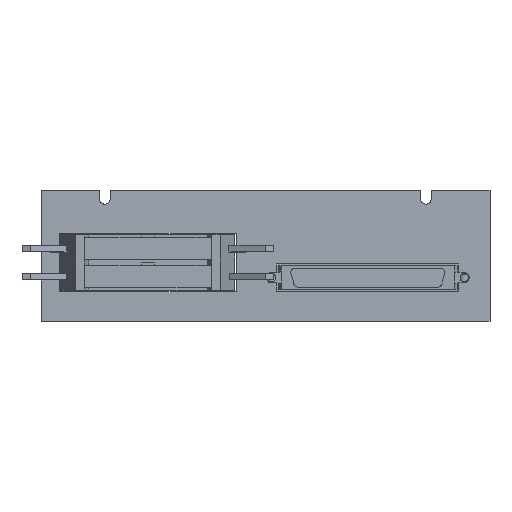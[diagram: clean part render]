
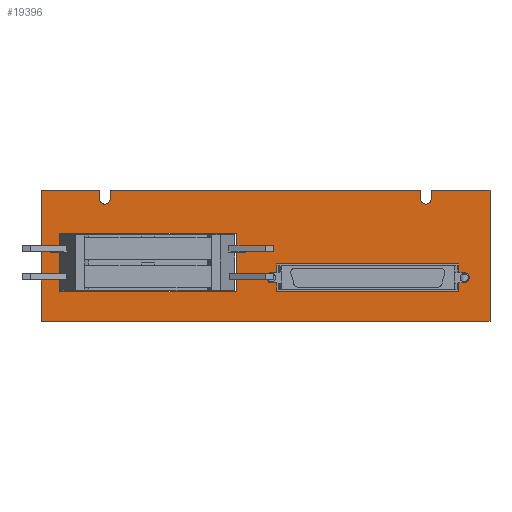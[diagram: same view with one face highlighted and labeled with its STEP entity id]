
A CAD part, top view. The second image highlights one B-rep face of the part: STEP entity #19396.
In plain terms, the highlighted planar face has unit normal (0, 0, 1).
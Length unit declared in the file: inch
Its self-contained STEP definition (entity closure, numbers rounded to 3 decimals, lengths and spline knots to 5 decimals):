
#475=DIRECTION('',(0.,-1.,0.));
#476=VECTOR('',#475,0.1);
#477=CARTESIAN_POINT('',(-1.86189,1.205,3.78));
#478=LINE('',#477,#476);
#479=DIRECTION('',(-1.,0.,0.));
#480=VECTOR('',#479,3.674);
#481=CARTESIAN_POINT('',(1.81211,1.205,3.78));
#482=LINE('',#481,#480);
#483=DIRECTION('',(0.,-1.,0.));
#484=VECTOR('',#483,0.1);
#485=CARTESIAN_POINT('',(1.81211,1.205,3.78));
#486=LINE('',#485,#484);
#487=CARTESIAN_POINT('',(1.87511,1.105,3.78));
#488=DIRECTION('',(0.,0.,1.));
#489=DIRECTION('',(-1.,0.,0.));
#490=AXIS2_PLACEMENT_3D('',#487,#488,#489);
#492=DIRECTION('',(0.,-1.,0.));
#493=VECTOR('',#492,0.1);
#494=CARTESIAN_POINT('',(1.93811,1.205,3.78));
#495=LINE('',#494,#493);
#496=DIRECTION('',(-1.,0.,0.));
#497=VECTOR('',#496,0.6945);
#498=CARTESIAN_POINT('',(2.63261,1.205,3.78));
#499=LINE('',#498,#497);
#500=DIRECTION('',(0.,1.,0.));
#501=VECTOR('',#500,1.55);
#502=CARTESIAN_POINT('',(2.63261,-0.345,3.78));
#503=LINE('',#502,#501);
#504=DIRECTION('',(1.,0.,0.));
#505=VECTOR('',#504,5.31);
#506=CARTESIAN_POINT('',(-2.67739,-0.345,3.78));
#507=LINE('',#506,#505);
#508=DIRECTION('',(0.,-1.,0.));
#509=VECTOR('',#508,1.55);
#510=CARTESIAN_POINT('',(-2.67739,1.205,3.78));
#511=LINE('',#510,#509);
#512=DIRECTION('',(-1.,0.,0.));
#513=VECTOR('',#512,0.6895);
#514=CARTESIAN_POINT('',(-1.98789,1.205,3.78));
#515=LINE('',#514,#513);
#516=DIRECTION('',(0.,-1.,0.));
#517=VECTOR('',#516,0.1);
#518=CARTESIAN_POINT('',(-1.98789,1.205,3.78));
#519=LINE('',#518,#517);
#520=CARTESIAN_POINT('',(-1.92489,1.105,3.78));
#521=DIRECTION('',(0.,0.,1.));
#522=DIRECTION('',(-1.,0.,0.));
#523=AXIS2_PLACEMENT_3D('',#520,#521,#522);
#525=DIRECTION('',(0.,-1.,0.));
#526=VECTOR('',#525,0.1025);
#527=CARTESIAN_POINT('',(0.10961,0.33376,3.78));
#528=LINE('',#527,#526);
#529=DIRECTION('',(-1.,0.,0.));
#530=VECTOR('',#529,0.0625);
#531=CARTESIAN_POINT('',(0.10961,0.23126,3.78));
#532=LINE('',#531,#530);
#533=CARTESIAN_POINT('',(0.04711,0.17126,3.78));
#534=DIRECTION('',(0.,0.,1.));
#535=DIRECTION('',(0.,1.,0.));
#536=AXIS2_PLACEMENT_3D('',#533,#534,#535);
#538=DIRECTION('',(1.,0.,0.));
#539=VECTOR('',#538,0.0625);
#540=CARTESIAN_POINT('',(0.04711,0.11126,3.78));
#541=LINE('',#540,#539);
#542=DIRECTION('',(0.,-1.,0.));
#543=VECTOR('',#542,0.1025);
#544=CARTESIAN_POINT('',(0.10961,0.11126,3.78));
#545=LINE('',#544,#543);
#546=DIRECTION('',(1.,0.,0.));
#547=VECTOR('',#546,2.155);
#548=CARTESIAN_POINT('',(0.10961,0.00876,3.78));
#549=LINE('',#548,#547);
#550=DIRECTION('',(0.,1.,0.));
#551=VECTOR('',#550,0.1025);
#552=CARTESIAN_POINT('',(2.26461,0.00876,3.78));
#553=LINE('',#552,#551);
#554=DIRECTION('',(1.,0.,0.));
#555=VECTOR('',#554,0.0625);
#556=CARTESIAN_POINT('',(2.26461,0.11126,3.78));
#557=LINE('',#556,#555);
#558=CARTESIAN_POINT('',(2.32711,0.17126,3.78));
#559=DIRECTION('',(0.,0.,1.));
#560=DIRECTION('',(0.,-1.,0.));
#561=AXIS2_PLACEMENT_3D('',#558,#559,#560);
#563=DIRECTION('',(-1.,0.,0.));
#564=VECTOR('',#563,0.0625);
#565=CARTESIAN_POINT('',(2.32711,0.23126,3.78));
#566=LINE('',#565,#564);
#567=DIRECTION('',(0.,1.,0.));
#568=VECTOR('',#567,0.1025);
#569=CARTESIAN_POINT('',(2.26461,0.23126,3.78));
#570=LINE('',#569,#568);
#571=DIRECTION('',(-1.,0.,0.));
#572=VECTOR('',#571,2.155);
#573=CARTESIAN_POINT('',(2.26461,0.33376,3.78));
#574=LINE('',#573,#572);
#575=DIRECTION('',(1.,0.,0.));
#576=VECTOR('',#575,2.09);
#577=CARTESIAN_POINT('',(-2.46,0.005,3.78));
#578=LINE('',#577,#576);
#579=DIRECTION('',(0.,1.,0.));
#580=VECTOR('',#579,0.69);
#581=CARTESIAN_POINT('',(-0.37,0.005,3.78));
#582=LINE('',#581,#580);
#583=DIRECTION('',(1.,0.,0.));
#584=VECTOR('',#583,2.09);
#585=CARTESIAN_POINT('',(-2.46,0.695,3.78));
#586=LINE('',#585,#584);
#587=DIRECTION('',(0.,-1.,0.));
#588=VECTOR('',#587,0.69);
#589=CARTESIAN_POINT('',(-2.46,0.695,3.78));
#590=LINE('',#589,#588);
#18771=CARTESIAN_POINT('',(-2.67739,1.205,3.78));
#18772=CARTESIAN_POINT('',(-2.67739,-0.345,3.78));
#18773=VERTEX_POINT('',#18771);
#18774=VERTEX_POINT('',#18772);
#18775=CARTESIAN_POINT('',(2.63261,-0.345,3.78));
#18776=VERTEX_POINT('',#18775);
#18777=CARTESIAN_POINT('',(2.63261,1.205,3.78));
#18778=VERTEX_POINT('',#18777);
#18779=CARTESIAN_POINT('',(0.10961,0.33376,3.78));
#18780=CARTESIAN_POINT('',(0.10961,0.23126,3.78));
#18781=VERTEX_POINT('',#18779);
#18782=VERTEX_POINT('',#18780);
#18783=CARTESIAN_POINT('',(0.04711,0.23126,3.78));
#18784=VERTEX_POINT('',#18783);
#18785=CARTESIAN_POINT('',(0.04711,0.11126,3.78));
#18786=VERTEX_POINT('',#18785);
#18787=CARTESIAN_POINT('',(0.10961,0.11126,3.78));
#18788=VERTEX_POINT('',#18787);
#18789=CARTESIAN_POINT('',(0.10961,0.00876,3.78));
#18790=VERTEX_POINT('',#18789);
#18791=CARTESIAN_POINT('',(2.26461,0.00876,3.78));
#18792=VERTEX_POINT('',#18791);
#18793=CARTESIAN_POINT('',(2.26461,0.11126,3.78));
#18794=VERTEX_POINT('',#18793);
#18795=CARTESIAN_POINT('',(2.32711,0.11126,3.78));
#18796=VERTEX_POINT('',#18795);
#18797=CARTESIAN_POINT('',(2.32711,0.23126,3.78));
#18798=VERTEX_POINT('',#18797);
#18799=CARTESIAN_POINT('',(2.26461,0.23126,3.78));
#18800=VERTEX_POINT('',#18799);
#18801=CARTESIAN_POINT('',(2.26461,0.33376,3.78));
#18802=VERTEX_POINT('',#18801);
#18811=CARTESIAN_POINT('',(-2.46,0.005,3.78));
#18812=CARTESIAN_POINT('',(-0.37,0.005,3.78));
#18813=VERTEX_POINT('',#18811);
#18814=VERTEX_POINT('',#18812);
#18815=CARTESIAN_POINT('',(-0.37,0.695,3.78));
#18816=VERTEX_POINT('',#18815);
#18817=CARTESIAN_POINT('',(-2.46,0.695,3.78));
#18818=VERTEX_POINT('',#18817);
#18835=CARTESIAN_POINT('',(-1.86189,1.205,3.78));
#18836=CARTESIAN_POINT('',(-1.86189,1.105,3.78));
#18837=VERTEX_POINT('',#18835);
#18838=VERTEX_POINT('',#18836);
#18839=CARTESIAN_POINT('',(-1.98789,1.205,3.78));
#18840=CARTESIAN_POINT('',(-1.98789,1.105,3.78));
#18841=VERTEX_POINT('',#18839);
#18842=VERTEX_POINT('',#18840);
#18843=CARTESIAN_POINT('',(1.81211,1.105,3.78));
#18844=CARTESIAN_POINT('',(1.93811,1.105,3.78));
#18845=VERTEX_POINT('',#18843);
#18846=VERTEX_POINT('',#18844);
#18847=CARTESIAN_POINT('',(1.93811,1.205,3.78));
#18848=VERTEX_POINT('',#18847);
#18849=CARTESIAN_POINT('',(1.81211,1.205,3.78));
#18850=VERTEX_POINT('',#18849);
#19341=CARTESIAN_POINT('',(-0.02239,0.43,3.78));
#19342=DIRECTION('',(0.,0.,1.));
#19343=DIRECTION('',(1.,0.,0.));
#19344=AXIS2_PLACEMENT_3D('',#19341,#19342,#19343);
#19345=PLANE('',#19344);
#19346=ORIENTED_EDGE('',*,*,#19181,.F.);
#19347=ORIENTED_EDGE('',*,*,#19197,.F.);
#19348=ORIENTED_EDGE('',*,*,#19210,.T.);
#19349=ORIENTED_EDGE('',*,*,#19224,.T.);
#19350=ORIENTED_EDGE('',*,*,#19238,.F.);
#19351=ORIENTED_EDGE('',*,*,#19253,.F.);
#19352=ORIENTED_EDGE('',*,*,#19266,.F.);
#19353=ORIENTED_EDGE('',*,*,#19280,.F.);
#19354=ORIENTED_EDGE('',*,*,#19294,.F.);
#19355=ORIENTED_EDGE('',*,*,#19307,.F.);
#19356=ORIENTED_EDGE('',*,*,#19322,.T.);
#19357=ORIENTED_EDGE('',*,*,#19335,.T.);
#19358=EDGE_LOOP('',(#19346,#19347,#19348,#19349,#19350,#19351,#19352,#19353,
#19354,#19355,#19356,#19357));
#19359=FACE_OUTER_BOUND('',#19358,.F.);
#19361=ORIENTED_EDGE('',*,*,#19360,.T.);
#19363=ORIENTED_EDGE('',*,*,#19362,.T.);
#19365=ORIENTED_EDGE('',*,*,#19364,.T.);
#19367=ORIENTED_EDGE('',*,*,#19366,.T.);
#19369=ORIENTED_EDGE('',*,*,#19368,.T.);
#19371=ORIENTED_EDGE('',*,*,#19370,.T.);
#19373=ORIENTED_EDGE('',*,*,#19372,.T.);
#19375=ORIENTED_EDGE('',*,*,#19374,.T.);
#19377=ORIENTED_EDGE('',*,*,#19376,.T.);
#19379=ORIENTED_EDGE('',*,*,#19378,.T.);
#19381=ORIENTED_EDGE('',*,*,#19380,.T.);
#19383=ORIENTED_EDGE('',*,*,#19382,.T.);
#19384=EDGE_LOOP('',(#19361,#19363,#19365,#19367,#19369,#19371,#19373,#19375,
#19377,#19379,#19381,#19383));
#19385=FACE_BOUND('',#19384,.F.);
#19387=ORIENTED_EDGE('',*,*,#19386,.T.);
#19389=ORIENTED_EDGE('',*,*,#19388,.T.);
#19391=ORIENTED_EDGE('',*,*,#19390,.F.);
#19393=ORIENTED_EDGE('',*,*,#19392,.T.);
#19394=EDGE_LOOP('',(#19387,#19389,#19391,#19393));
#19395=FACE_BOUND('',#19394,.F.);
#19396=ADVANCED_FACE('',(#19359,#19385,#19395),#19345,.T.);
#491=CIRCLE('',#490,0.063);
#524=CIRCLE('',#523,0.063);
#537=CIRCLE('',#536,0.06);
#562=CIRCLE('',#561,0.06);
#19181=EDGE_CURVE('',#18837,#18838,#478,.T.);
#19197=EDGE_CURVE('',#18850,#18837,#482,.T.);
#19210=EDGE_CURVE('',#18850,#18845,#486,.T.);
#19224=EDGE_CURVE('',#18845,#18846,#491,.T.);
#19238=EDGE_CURVE('',#18848,#18846,#495,.T.);
#19253=EDGE_CURVE('',#18778,#18848,#499,.T.);
#19266=EDGE_CURVE('',#18776,#18778,#503,.T.);
#19280=EDGE_CURVE('',#18774,#18776,#507,.T.);
#19294=EDGE_CURVE('',#18773,#18774,#511,.T.);
#19307=EDGE_CURVE('',#18841,#18773,#515,.T.);
#19322=EDGE_CURVE('',#18841,#18842,#519,.T.);
#19335=EDGE_CURVE('',#18842,#18838,#524,.T.);
#19360=EDGE_CURVE('',#18781,#18782,#528,.T.);
#19362=EDGE_CURVE('',#18782,#18784,#532,.T.);
#19364=EDGE_CURVE('',#18784,#18786,#537,.T.);
#19366=EDGE_CURVE('',#18786,#18788,#541,.T.);
#19368=EDGE_CURVE('',#18788,#18790,#545,.T.);
#19370=EDGE_CURVE('',#18790,#18792,#549,.T.);
#19372=EDGE_CURVE('',#18792,#18794,#553,.T.);
#19374=EDGE_CURVE('',#18794,#18796,#557,.T.);
#19376=EDGE_CURVE('',#18796,#18798,#562,.T.);
#19378=EDGE_CURVE('',#18798,#18800,#566,.T.);
#19380=EDGE_CURVE('',#18800,#18802,#570,.T.);
#19382=EDGE_CURVE('',#18802,#18781,#574,.T.);
#19386=EDGE_CURVE('',#18813,#18814,#578,.T.);
#19388=EDGE_CURVE('',#18814,#18816,#582,.T.);
#19390=EDGE_CURVE('',#18818,#18816,#586,.T.);
#19392=EDGE_CURVE('',#18818,#18813,#590,.T.);
